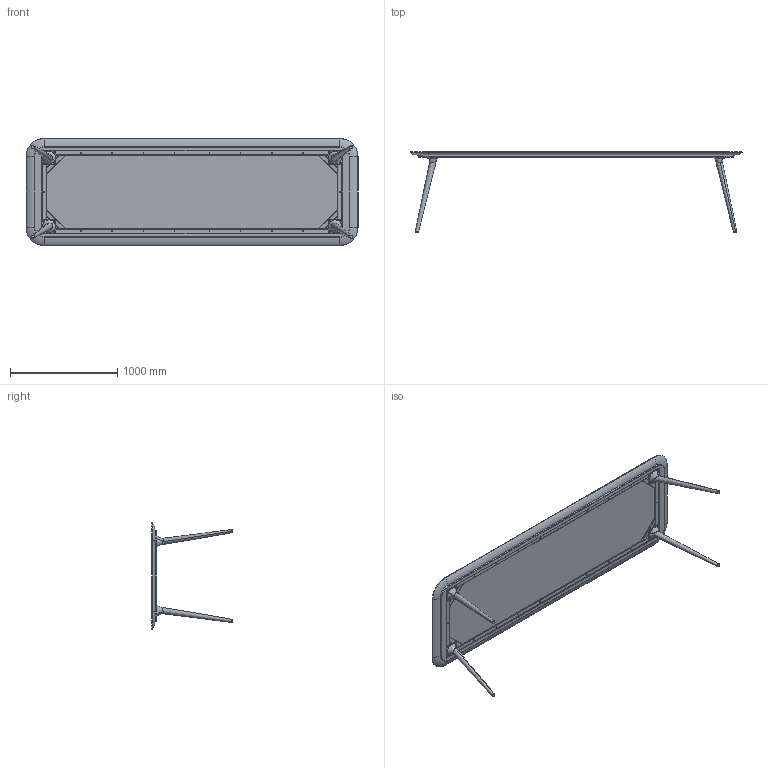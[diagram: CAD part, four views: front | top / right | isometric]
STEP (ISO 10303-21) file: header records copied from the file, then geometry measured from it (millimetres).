
FILE_DESCRIPTION (( 'STEP AP203' ), '1' );
FILE_NAME ('Zio_Dining_Table_310x100.STEP', '2014-09-02T11:42:15', ( '' ), ( '' ), 'SwSTEP 2.0', 'SolidWorks 2014', '' );
FILE_SCHEMA (( 'CONFIG_CONTROL_DESIGN' ));
Length unit declared in the file: millimetre
Products named in the file (1): Zio_Dining_Table_310x100
Bounding box: 3100.46 x 749.96 x 1000.44 mm (x, y, z)
Volume: 96337690 mm3; surface area: 9867644.7 mm2
Topology: 15 solids, 15 shells, 635 faces, 1623 edges, 992 vertices
Faces by surface type: cylinder 313, cone 156, plane 138, bspline 16, torus 12
Entity records: 22412 total; most frequent: CARTESIAN_POINT 6479, DIRECTION 3493, ORIENTED_EDGE 3094, EDGE_CURVE 1547, AXIS2_PLACEMENT_3D 1366, VERTEX_POINT 992, EDGE_LOOP 889, LINE 761
